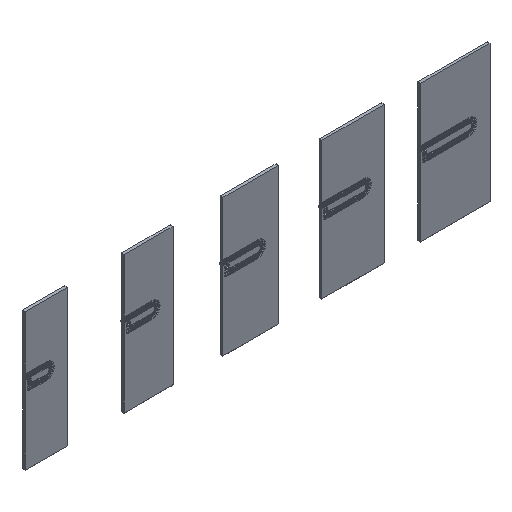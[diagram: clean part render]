
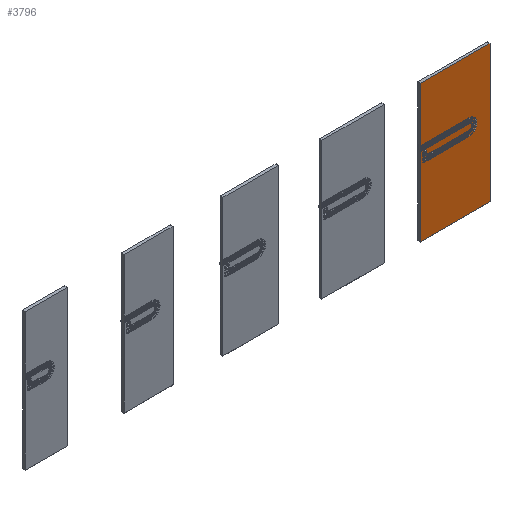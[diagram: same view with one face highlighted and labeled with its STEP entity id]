
A CAD part, isometric view. The second image highlights one B-rep face of the part: STEP entity #3796.
In plain terms, the highlighted planar face has unit normal (0, -1, 0).
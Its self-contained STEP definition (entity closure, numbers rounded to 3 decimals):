
#2347=CIRCLE('',#25893,71.);
#2348=CIRCLE('',#25894,59.);
#2349=CIRCLE('',#25895,9.);
#2350=CIRCLE('',#25896,41.);
#2351=CIRCLE('',#25897,119.);
#2352=CIRCLE('',#25898,9.);
#2353=CIRCLE('',#25899,101.);
#2354=CIRCLE('',#25900,89.);
#2355=CIRCLE('',#25901,9.);
#3796=ADVANCED_FACE('',(#5840),#4876,.F.);
#4876=PLANE('',#25902);
#5840=FACE_OUTER_BOUND('',#7332,.T.);
#7332=EDGE_LOOP('',(#11435,#11436,#11437,#11438,#11439,#11440,#11441,#11442,
#11443,#11444,#11445,#11446,#11447,#11448,#11449,#11450,#11451,#11452,#11453,
#11454,#11455,#11456,#11457,#11458,#11459,#11460,#11461,#11462));
#11435=ORIENTED_EDGE('',*,*,#19025,.T.);
#11436=ORIENTED_EDGE('',*,*,#19026,.T.);
#11437=ORIENTED_EDGE('',*,*,#18978,.T.);
#11438=ORIENTED_EDGE('',*,*,#19027,.F.);
#11439=ORIENTED_EDGE('',*,*,#19028,.F.);
#11440=ORIENTED_EDGE('',*,*,#19029,.F.);
#11441=ORIENTED_EDGE('',*,*,#19030,.F.);
#11442=ORIENTED_EDGE('',*,*,#19031,.T.);
#11443=ORIENTED_EDGE('',*,*,#19032,.T.);
#11444=ORIENTED_EDGE('',*,*,#19033,.T.);
#11445=ORIENTED_EDGE('',*,*,#19024,.T.);
#11446=ORIENTED_EDGE('',*,*,#19034,.T.);
#11447=ORIENTED_EDGE('',*,*,#19035,.F.);
#11448=ORIENTED_EDGE('',*,*,#19036,.F.);
#11449=ORIENTED_EDGE('',*,*,#18994,.T.);
#11450=ORIENTED_EDGE('',*,*,#19037,.F.);
#11451=ORIENTED_EDGE('',*,*,#19038,.F.);
#11452=ORIENTED_EDGE('',*,*,#19039,.F.);
#11453=ORIENTED_EDGE('',*,*,#19040,.F.);
#11454=ORIENTED_EDGE('',*,*,#19041,.T.);
#11455=ORIENTED_EDGE('',*,*,#19042,.T.);
#11456=ORIENTED_EDGE('',*,*,#19043,.T.);
#11457=ORIENTED_EDGE('',*,*,#18986,.T.);
#11458=ORIENTED_EDGE('',*,*,#19044,.F.);
#11459=ORIENTED_EDGE('',*,*,#19045,.F.);
#11460=ORIENTED_EDGE('',*,*,#19046,.F.);
#11461=ORIENTED_EDGE('',*,*,#19047,.F.);
#11462=ORIENTED_EDGE('',*,*,#19048,.T.);
#16264=VERTEX_POINT('',#38875);
#16270=VERTEX_POINT('',#38887);
#16271=VERTEX_POINT('',#38889);
#16278=VERTEX_POINT('',#38903);
#16279=VERTEX_POINT('',#38905);
#16286=VERTEX_POINT('',#38919);
#16287=VERTEX_POINT('',#38921);
#16316=VERTEX_POINT('',#38979);
#16317=VERTEX_POINT('',#38983);
#16318=VERTEX_POINT('',#38984);
#16319=VERTEX_POINT('',#38987);
#16320=VERTEX_POINT('',#38989);
#16321=VERTEX_POINT('',#38991);
#16322=VERTEX_POINT('',#38993);
#16323=VERTEX_POINT('',#38995);
#16324=VERTEX_POINT('',#38997);
#16325=VERTEX_POINT('',#39000);
#16326=VERTEX_POINT('',#39002);
#16327=VERTEX_POINT('',#39005);
#16328=VERTEX_POINT('',#39007);
#16329=VERTEX_POINT('',#39009);
#16330=VERTEX_POINT('',#39011);
#16331=VERTEX_POINT('',#39013);
#16332=VERTEX_POINT('',#39015);
#16333=VERTEX_POINT('',#39018);
#16334=VERTEX_POINT('',#39020);
#16335=VERTEX_POINT('',#39022);
#16336=VERTEX_POINT('',#39024);
#18978=EDGE_CURVE('',#16271,#16270,#21742,.T.);
#18986=EDGE_CURVE('',#16279,#16278,#21746,.T.);
#18994=EDGE_CURVE('',#16287,#16286,#21750,.T.);
#19024=EDGE_CURVE('',#16264,#16316,#21768,.T.);
#19025=EDGE_CURVE('',#16317,#16318,#2347,.T.);
#19026=EDGE_CURVE('',#16318,#16271,#21769,.T.);
#19027=EDGE_CURVE('',#16319,#16270,#21770,.T.);
#19028=EDGE_CURVE('',#16320,#16319,#2348,.T.);
#19029=EDGE_CURVE('',#16321,#16320,#21771,.T.);
#19030=EDGE_CURVE('',#16322,#16321,#2349,.T.);
#19031=EDGE_CURVE('',#16322,#16323,#21772,.T.);
#19032=EDGE_CURVE('',#16323,#16324,#2350,.T.);
#19033=EDGE_CURVE('',#16324,#16264,#21773,.T.);
#19034=EDGE_CURVE('',#16316,#16325,#21774,.T.);
#19035=EDGE_CURVE('',#16326,#16325,#21775,.T.);
#19036=EDGE_CURVE('',#16287,#16326,#21776,.T.);
#19037=EDGE_CURVE('',#16327,#16286,#21777,.T.);
#19038=EDGE_CURVE('',#16328,#16327,#2351,.T.);
#19039=EDGE_CURVE('',#16329,#16328,#21778,.T.);
#19040=EDGE_CURVE('',#16330,#16329,#2352,.T.);
#19041=EDGE_CURVE('',#16330,#16331,#21779,.T.);
#19042=EDGE_CURVE('',#16331,#16332,#2353,.T.);
#19043=EDGE_CURVE('',#16332,#16279,#21780,.T.);
#19044=EDGE_CURVE('',#16333,#16278,#21781,.T.);
#19045=EDGE_CURVE('',#16334,#16333,#2354,.T.);
#19046=EDGE_CURVE('',#16335,#16334,#21782,.T.);
#19047=EDGE_CURVE('',#16336,#16335,#2355,.T.);
#19048=EDGE_CURVE('',#16336,#16317,#21783,.T.);
#21742=LINE('',#38888,#23532);
#21746=LINE('',#38904,#23536);
#21750=LINE('',#38920,#23540);
#21768=LINE('',#38980,#23558);
#21769=LINE('',#38985,#23559);
#21770=LINE('',#38986,#23560);
#21771=LINE('',#38990,#23561);
#21772=LINE('',#38994,#23562);
#21773=LINE('',#38998,#23563);
#21774=LINE('',#38999,#23564);
#21775=LINE('',#39001,#23565);
#21776=LINE('',#39003,#23566);
#21777=LINE('',#39004,#23567);
#21778=LINE('',#39008,#23568);
#21779=LINE('',#39012,#23569);
#21780=LINE('',#39016,#23570);
#21781=LINE('',#39017,#23571);
#21782=LINE('',#39021,#23572);
#21783=LINE('',#39025,#23573);
#23532=VECTOR('',#30795,1.);
#23536=VECTOR('',#30807,1.);
#23540=VECTOR('',#30819,1.);
#23558=VECTOR('',#30861,1.);
#23559=VECTOR('',#30866,1.);
#23560=VECTOR('',#30867,1.);
#23561=VECTOR('',#30870,1.);
#23562=VECTOR('',#30873,1.);
#23563=VECTOR('',#30876,1.);
#23564=VECTOR('',#30877,1.);
#23565=VECTOR('',#30878,1.);
#23566=VECTOR('',#30879,1.);
#23567=VECTOR('',#30880,1.);
#23568=VECTOR('',#30883,1.);
#23569=VECTOR('',#30886,1.);
#23570=VECTOR('',#30889,1.);
#23571=VECTOR('',#30890,1.);
#23572=VECTOR('',#30893,1.);
#23573=VECTOR('',#30896,1.);
#25893=AXIS2_PLACEMENT_3D('',#38982,#30864,#30865);
#25894=AXIS2_PLACEMENT_3D('',#38988,#30868,#30869);
#25895=AXIS2_PLACEMENT_3D('',#38992,#30871,#30872);
#25896=AXIS2_PLACEMENT_3D('',#38996,#30874,#30875);
#25897=AXIS2_PLACEMENT_3D('',#39006,#30881,#30882);
#25898=AXIS2_PLACEMENT_3D('',#39010,#30884,#30885);
#25899=AXIS2_PLACEMENT_3D('',#39014,#30887,#30888);
#25900=AXIS2_PLACEMENT_3D('',#39019,#30891,#30892);
#25901=AXIS2_PLACEMENT_3D('',#39023,#30894,#30895);
#25902=AXIS2_PLACEMENT_3D('',#39026,#30897,#30898);
#30795=DIRECTION('',(0.,0.,-1.));
#30807=DIRECTION('',(0.,0.,-1.));
#30819=DIRECTION('',(0.,0.,-1.));
#30861=DIRECTION('',(0.,0.,-1.));
#30864=DIRECTION('',(0.,-1.,0.));
#30865=DIRECTION('',(0.,0.,-1.));
#30866=DIRECTION('',(-1.,0.,0.));
#30867=DIRECTION('',(-1.,0.,0.));
#30868=DIRECTION('',(0.,-1.,0.));
#30869=DIRECTION('',(0.,0.,-1.));
#30870=DIRECTION('',(1.,0.,0.));
#30871=DIRECTION('',(0.,-1.,0.));
#30872=DIRECTION('',(0.,0.,-1.));
#30873=DIRECTION('',(1.,0.,0.));
#30874=DIRECTION('',(0.,-1.,0.));
#30875=DIRECTION('',(0.,0.,-1.));
#30876=DIRECTION('',(-1.,0.,0.));
#30877=DIRECTION('',(1.,0.,0.));
#30878=DIRECTION('',(0.,0.,-1.));
#30879=DIRECTION('',(1.,0.,0.));
#30880=DIRECTION('',(-1.,0.,0.));
#30881=DIRECTION('',(0.,-1.,0.));
#30882=DIRECTION('',(0.,0.,-1.));
#30883=DIRECTION('',(1.,0.,0.));
#30884=DIRECTION('',(0.,-1.,0.));
#30885=DIRECTION('',(0.,0.,-1.));
#30886=DIRECTION('',(1.,0.,0.));
#30887=DIRECTION('',(0.,-1.,0.));
#30888=DIRECTION('',(0.,0.,-1.));
#30889=DIRECTION('',(-1.,0.,0.));
#30890=DIRECTION('',(-1.,0.,0.));
#30891=DIRECTION('',(0.,-1.,0.));
#30892=DIRECTION('',(0.,0.,-1.));
#30893=DIRECTION('',(1.,0.,0.));
#30894=DIRECTION('',(0.,-1.,0.));
#30895=DIRECTION('',(0.,0.,-1.));
#30896=DIRECTION('',(1.,0.,0.));
#30897=DIRECTION('',(0.,1.,0.));
#30898=DIRECTION('',(0.,0.,1.));
#38875=CARTESIAN_POINT('',(5491.,-39.3,1145.));
#38887=CARTESIAN_POINT('',(5491.,-39.3,1163.));
#38888=CARTESIAN_POINT('',(5491.,-39.3,2017.));
#38889=CARTESIAN_POINT('',(5491.,-39.3,1175.));
#38903=CARTESIAN_POINT('',(5491.,-39.3,1193.));
#38904=CARTESIAN_POINT('',(5491.,-39.3,2017.));
#38905=CARTESIAN_POINT('',(5491.,-39.3,1205.));
#38919=CARTESIAN_POINT('',(5491.,-39.3,1223.));
#38920=CARTESIAN_POINT('',(5491.,-39.3,2017.));
#38921=CARTESIAN_POINT('',(5491.,-39.3,2017.));
#38979=CARTESIAN_POINT('',(5491.,-39.3,2.));
#38980=CARTESIAN_POINT('',(5491.,-39.3,2017.));
#38982=CARTESIAN_POINT('',(6199.,-39.3,1104.));
#38983=CARTESIAN_POINT('',(6199.,-39.3,1033.));
#38984=CARTESIAN_POINT('',(6199.,-39.3,1175.));
#38985=CARTESIAN_POINT('',(6199.,-39.3,1175.));
#38986=CARTESIAN_POINT('',(6199.,-39.3,1163.));
#38987=CARTESIAN_POINT('',(6199.,-39.3,1163.));
#38988=CARTESIAN_POINT('',(6199.,-39.3,1104.));
#38989=CARTESIAN_POINT('',(6199.,-39.3,1045.));
#38990=CARTESIAN_POINT('',(5601.,-39.3,1045.));
#38991=CARTESIAN_POINT('',(5601.,-39.3,1045.));
#38992=CARTESIAN_POINT('',(5601.,-39.3,1054.));
#38993=CARTESIAN_POINT('',(5601.,-39.3,1063.));
#38994=CARTESIAN_POINT('',(5601.,-39.3,1063.));
#38995=CARTESIAN_POINT('',(6199.,-39.3,1063.));
#38996=CARTESIAN_POINT('',(6199.,-39.3,1104.));
#38997=CARTESIAN_POINT('',(6199.,-39.3,1145.));
#38998=CARTESIAN_POINT('',(6199.,-39.3,1145.));
#38999=CARTESIAN_POINT('',(5691.,-39.3,2.));
#39000=CARTESIAN_POINT('',(6509.,-39.3,2.));
#39001=CARTESIAN_POINT('',(6509.,-39.3,2017.));
#39002=CARTESIAN_POINT('',(6509.,-39.3,2017.));
#39003=CARTESIAN_POINT('',(5691.,-39.3,2017.));
#39004=CARTESIAN_POINT('',(6199.,-39.3,1223.));
#39005=CARTESIAN_POINT('',(6199.,-39.3,1223.));
#39006=CARTESIAN_POINT('',(6199.,-39.3,1104.));
#39007=CARTESIAN_POINT('',(6199.,-39.3,985.));
#39008=CARTESIAN_POINT('',(5601.,-39.3,985.));
#39009=CARTESIAN_POINT('',(5601.,-39.3,985.));
#39010=CARTESIAN_POINT('',(5601.,-39.3,994.));
#39011=CARTESIAN_POINT('',(5601.,-39.3,1003.));
#39012=CARTESIAN_POINT('',(5601.,-39.3,1003.));
#39013=CARTESIAN_POINT('',(6199.,-39.3,1003.));
#39014=CARTESIAN_POINT('',(6199.,-39.3,1104.));
#39015=CARTESIAN_POINT('',(6199.,-39.3,1205.));
#39016=CARTESIAN_POINT('',(6199.,-39.3,1205.));
#39017=CARTESIAN_POINT('',(6199.,-39.3,1193.));
#39018=CARTESIAN_POINT('',(6199.,-39.3,1193.));
#39019=CARTESIAN_POINT('',(6199.,-39.3,1104.));
#39020=CARTESIAN_POINT('',(6199.,-39.3,1015.));
#39021=CARTESIAN_POINT('',(5601.,-39.3,1015.));
#39022=CARTESIAN_POINT('',(5601.,-39.3,1015.));
#39023=CARTESIAN_POINT('',(5601.,-39.3,1024.));
#39024=CARTESIAN_POINT('',(5601.,-39.3,1033.));
#39025=CARTESIAN_POINT('',(5601.,-39.3,1033.));
#39026=CARTESIAN_POINT('',(5691.,-39.3,2017.));
